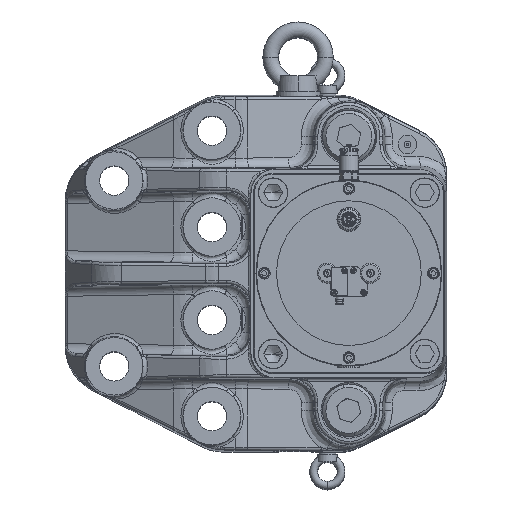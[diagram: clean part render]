
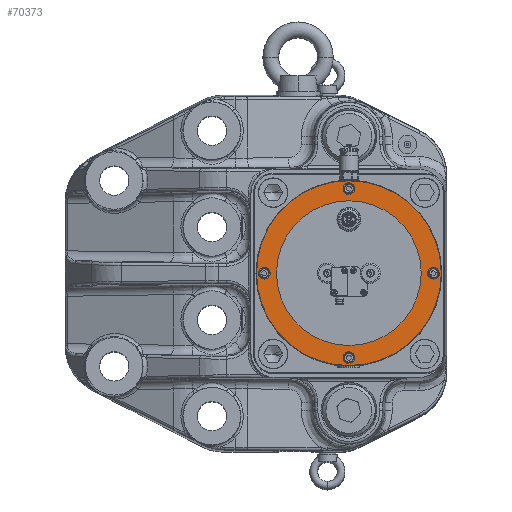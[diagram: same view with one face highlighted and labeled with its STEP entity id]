
A CAD part, top view. The second image highlights one B-rep face of the part: STEP entity #70373.
In plain terms, the highlighted planar face has unit normal (0, 0, 1).
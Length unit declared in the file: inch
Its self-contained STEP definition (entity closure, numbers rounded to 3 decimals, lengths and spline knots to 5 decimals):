
#387 = CARTESIAN_POINT ( 'NONE',  ( 7.34251, 0., 12.65429 ) ) ;
#4979 = CARTESIAN_POINT ( 'NONE',  ( 7.34251, 0., 12.65429 ) ) ;
#5519 = AXIS2_PLACEMENT_3D ( 'NONE', #101018, #76503, #146454 ) ;
#7342 = AXIS2_PLACEMENT_3D ( 'NONE', #129227, #118047, #28043 ) ;
#10320 = EDGE_LOOP ( 'NONE', ( #32561, #100305 ) ) ;
#11989 = CIRCLE ( 'NONE', #7342, 0.12992 ) ;
#12750 = CARTESIAN_POINT ( 'NONE',  ( 0.21653, 0., 12.65429 ) ) ;
#14758 = EDGE_CURVE ( 'NONE', #130126, #50183, #106579, .T. ) ;
#14798 = DIRECTION ( 'NONE',  ( 0., 0., -1. ) ) ;
#15412 = AXIS2_PLACEMENT_3D ( 'NONE', #39686, #72478, #140912 ) ;
#16408 = CIRCLE ( 'NONE', #118492, 2.91339 ) ;
#18432 = CARTESIAN_POINT ( 'NONE',  ( 7.21259, 0., 12.65429 ) ) ;
#18461 = ORIENTED_EDGE ( 'NONE', *, *, #28849, .F. ) ;
#19649 = CARTESIAN_POINT ( 'NONE',  ( 0.40157, 0., 12.65429 ) ) ;
#20707 = FACE_BOUND ( 'NONE', #10320, .T. ) ;
#21088 = ORIENTED_EDGE ( 'NONE', *, *, #52633, .F. ) ;
#23068 = CIRCLE ( 'NONE', #110979, 0.12992 ) ;
#23144 = CIRCLE ( 'NONE', #129958, 0.12992 ) ;
#28043 = DIRECTION ( 'NONE',  ( 1., 0., 0. ) ) ;
#28098 = EDGE_CURVE ( 'NONE', #103761, #47029, #23068, .T. ) ;
#28849 = EDGE_CURVE ( 'NONE', #50183, #130126, #132664, .T. ) ;
#29536 = EDGE_LOOP ( 'NONE', ( #18461, #133993 ) ) ;
#31392 = CARTESIAN_POINT ( 'NONE',  ( 3.937, -3.40551, 12.65429 ) ) ;
#32104 = CARTESIAN_POINT ( 'NONE',  ( 7.47243, 0., 12.65429 ) ) ;
#32420 = VERTEX_POINT ( 'NONE', #112592 ) ;
#32561 = ORIENTED_EDGE ( 'NONE', *, *, #52261, .F. ) ;
#32599 = FACE_BOUND ( 'NONE', #78539, .T. ) ;
#36203 = DIRECTION ( 'NONE',  ( 1., 0., 0. ) ) ;
#36930 = DIRECTION ( 'NONE',  ( 0., 0., 1. ) ) ;
#37746 = CARTESIAN_POINT ( 'NONE',  ( 4.06692, -3.40551, 12.65429 ) ) ;
#38447 = VERTEX_POINT ( 'NONE', #98023 ) ;
#39686 = CARTESIAN_POINT ( 'NONE',  ( 3.937, 3.40551, 12.65429 ) ) ;
#40649 = CIRCLE ( 'NONE', #95253, 0.12992 ) ;
#42198 = CIRCLE ( 'NONE', #96882, 2.91339 ) ;
#43236 = AXIS2_PLACEMENT_3D ( 'NONE', #4979, #36930, #36203 ) ;
#45487 = DIRECTION ( 'NONE',  ( -1., 0., 0. ) ) ;
#45691 = DIRECTION ( 'NONE',  ( 1., 0., 0. ) ) ;
#46271 = ORIENTED_EDGE ( 'NONE', *, *, #76837, .F. ) ;
#46688 = EDGE_CURVE ( 'NONE', #145538, #93389, #23144, .T. ) ;
#47029 = VERTEX_POINT ( 'NONE', #37746 ) ;
#47737 = EDGE_CURVE ( 'NONE', #32420, #146039, #16408, .T. ) ;
#48147 = CIRCLE ( 'NONE', #126550, 0.12992 ) ;
#50183 = VERTEX_POINT ( 'NONE', #12750 ) ;
#50417 = CARTESIAN_POINT ( 'NONE',  ( 3.937, 0., 12.65429 ) ) ;
#51379 = DIRECTION ( 'NONE',  ( -1., 0., 0. ) ) ;
#51384 = VERTEX_POINT ( 'NONE', #18432 ) ;
#52261 = EDGE_CURVE ( 'NONE', #47029, #103761, #48147, .T. ) ;
#52633 = EDGE_CURVE ( 'NONE', #51384, #53769, #40649, .T. ) ;
#52782 = CARTESIAN_POINT ( 'NONE',  ( 0.53149, 0., 12.65429 ) ) ;
#53575 = EDGE_LOOP ( 'NONE', ( #131634, #79695 ) ) ;
#53769 = VERTEX_POINT ( 'NONE', #32104 ) ;
#54220 = EDGE_LOOP ( 'NONE', ( #104867, #21088 ) ) ;
#54859 = FACE_BOUND ( 'NONE', #53575, .T. ) ;
#56435 = DIRECTION ( 'NONE',  ( -1., 0., 0. ) ) ;
#56748 = EDGE_CURVE ( 'NONE', #38447, #137230, #136566, .T. ) ;
#62462 = DIRECTION ( 'NONE',  ( 0., 0., 1. ) ) ;
#63598 = DIRECTION ( 'NONE',  ( 0., 0., 1. ) ) ;
#65542 = AXIS2_PLACEMENT_3D ( 'NONE', #97090, #63598, #108961 ) ;
#70327 = ORIENTED_EDGE ( 'NONE', *, *, #46688, .F. ) ;
#70373 = ADVANCED_FACE ( 'NONE', ( #91280, #20707, #123328, #32599, #144980, #54859 ), #111397, .F. ) ;
#72221 = DIRECTION ( 'NONE',  ( 1., 0., 0. ) ) ;
#72478 = DIRECTION ( 'NONE',  ( 0., 0., 1. ) ) ;
#72957 = EDGE_LOOP ( 'NONE', ( #70327, #98448 ) ) ;
#76503 = DIRECTION ( 'NONE',  ( 0., 0., -1. ) ) ;
#76837 = EDGE_CURVE ( 'NONE', #137230, #38447, #120141, .T. ) ;
#78539 = EDGE_LOOP ( 'NONE', ( #94187, #46271 ) ) ;
#79006 = CARTESIAN_POINT ( 'NONE',  ( 3.80708, -3.40551, 12.65429 ) ) ;
#79695 = ORIENTED_EDGE ( 'NONE', *, *, #80841, .T. ) ;
#80841 = EDGE_CURVE ( 'NONE', #146039, #32420, #42198, .T. ) ;
#83369 = CARTESIAN_POINT ( 'NONE',  ( 3.937, -3.40551, 12.65429 ) ) ;
#87283 = AXIS2_PLACEMENT_3D ( 'NONE', #102619, #113003, #56435 ) ;
#91280 = FACE_BOUND ( 'NONE', #72957, .T. ) ;
#93389 = VERTEX_POINT ( 'NONE', #19649 ) ;
#94187 = ORIENTED_EDGE ( 'NONE', *, *, #56748, .F. ) ;
#95253 = AXIS2_PLACEMENT_3D ( 'NONE', #387, #103709, #45691 ) ;
#96882 = AXIS2_PLACEMENT_3D ( 'NONE', #142935, #130261, #51379 ) ;
#97090 = CARTESIAN_POINT ( 'NONE',  ( 3.937, 3.40551, 12.65429 ) ) ;
#98023 = CARTESIAN_POINT ( 'NONE',  ( 4.06692, 3.40551, 12.65429 ) ) ;
#98448 = ORIENTED_EDGE ( 'NONE', *, *, #131415, .F. ) ;
#99251 = DIRECTION ( 'NONE',  ( -1., 0., 0. ) ) ;
#100305 = ORIENTED_EDGE ( 'NONE', *, *, #28098, .F. ) ;
#101018 = CARTESIAN_POINT ( 'NONE',  ( 3.937, 2.91339, 12.65429 ) ) ;
#102619 = CARTESIAN_POINT ( 'NONE',  ( 3.937, 0., 12.65429 ) ) ;
#103709 = DIRECTION ( 'NONE',  ( 0., 0., 1. ) ) ;
#103761 = VERTEX_POINT ( 'NONE', #79006 ) ;
#104867 = ORIENTED_EDGE ( 'NONE', *, *, #141295, .F. ) ;
#106579 = CIRCLE ( 'NONE', #87283, 3.72047 ) ;
#108961 = DIRECTION ( 'NONE',  ( 1., 0., 0. ) ) ;
#110844 = CARTESIAN_POINT ( 'NONE',  ( 7.65747, 0., 12.65429 ) ) ;
#110931 = DIRECTION ( 'NONE',  ( 1., 0., 0. ) ) ;
#110979 = AXIS2_PLACEMENT_3D ( 'NONE', #31392, #121410, #110931 ) ;
#111397 = PLANE ( 'NONE',  #5519 ) ;
#111880 = CARTESIAN_POINT ( 'NONE',  ( 3.937, 0., 12.65429 ) ) ;
#112029 = CIRCLE ( 'NONE', #43236, 0.12992 ) ;
#112592 = CARTESIAN_POINT ( 'NONE',  ( 1.02361, 0., 12.65429 ) ) ;
#113003 = DIRECTION ( 'NONE',  ( 0., 0., -1. ) ) ;
#113446 = CARTESIAN_POINT ( 'NONE',  ( 3.80708, 3.40551, 12.65429 ) ) ;
#118047 = DIRECTION ( 'NONE',  ( 0., 0., 1. ) ) ;
#118492 = AXIS2_PLACEMENT_3D ( 'NONE', #50417, #14798, #45487 ) ;
#120141 = CIRCLE ( 'NONE', #65542, 0.12992 ) ;
#121410 = DIRECTION ( 'NONE',  ( 0., 0., 1. ) ) ;
#123328 = FACE_BOUND ( 'NONE', #54220, .T. ) ;
#125620 = CARTESIAN_POINT ( 'NONE',  ( 0.66141, 0., 12.65429 ) ) ;
#126550 = AXIS2_PLACEMENT_3D ( 'NONE', #83369, #128735, #72221 ) ;
#128735 = DIRECTION ( 'NONE',  ( 0., 0., 1. ) ) ;
#129227 = CARTESIAN_POINT ( 'NONE',  ( 0.53149, 0., 12.65429 ) ) ;
#129958 = AXIS2_PLACEMENT_3D ( 'NONE', #52782, #62462, #144318 ) ;
#130126 = VERTEX_POINT ( 'NONE', #110844 ) ;
#130261 = DIRECTION ( 'NONE',  ( 0., 0., -1. ) ) ;
#131415 = EDGE_CURVE ( 'NONE', #93389, #145538, #11989, .T. ) ;
#131634 = ORIENTED_EDGE ( 'NONE', *, *, #47737, .T. ) ;
#132664 = CIRCLE ( 'NONE', #137340, 3.72047 ) ;
#133993 = ORIENTED_EDGE ( 'NONE', *, *, #14758, .F. ) ;
#136566 = CIRCLE ( 'NONE', #15412, 0.12992 ) ;
#137230 = VERTEX_POINT ( 'NONE', #113446 ) ;
#137340 = AXIS2_PLACEMENT_3D ( 'NONE', #111880, #144697, #99251 ) ;
#140912 = DIRECTION ( 'NONE',  ( 1., 0., 0. ) ) ;
#141023 = CARTESIAN_POINT ( 'NONE',  ( 6.85039, 0., 12.65429 ) ) ;
#141295 = EDGE_CURVE ( 'NONE', #53769, #51384, #112029, .T. ) ;
#142935 = CARTESIAN_POINT ( 'NONE',  ( 3.937, 0., 12.65429 ) ) ;
#144318 = DIRECTION ( 'NONE',  ( 1., 0., 0. ) ) ;
#144697 = DIRECTION ( 'NONE',  ( 0., 0., -1. ) ) ;
#144980 = FACE_OUTER_BOUND ( 'NONE', #29536, .T. ) ;
#145538 = VERTEX_POINT ( 'NONE', #125620 ) ;
#146039 = VERTEX_POINT ( 'NONE', #141023 ) ;
#146454 = DIRECTION ( 'NONE',  ( -1., 0., 0. ) ) ;
